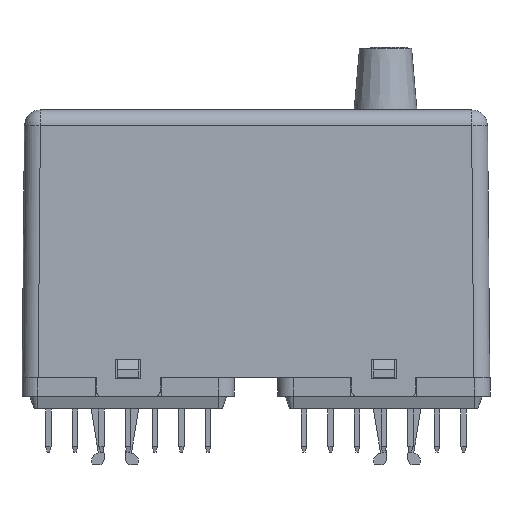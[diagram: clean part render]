
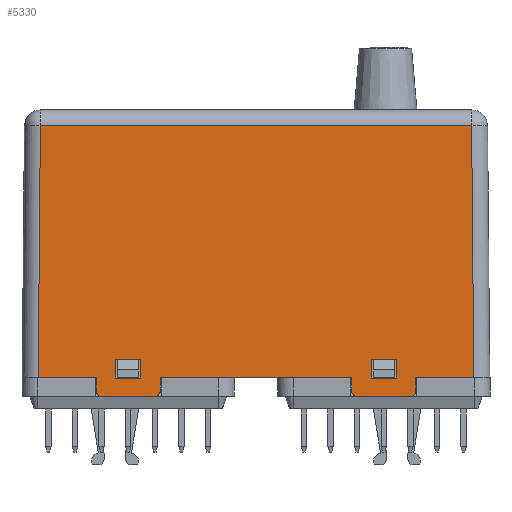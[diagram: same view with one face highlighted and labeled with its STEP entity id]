
A CAD part, front view. The second image highlights one B-rep face of the part: STEP entity #5330.
In plain terms, the highlighted planar face has unit normal (0, -1, 0.011).
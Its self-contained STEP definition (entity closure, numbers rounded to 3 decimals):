
#3420=CARTESIAN_POINT('',(40.909,-19.998,-0.05));
#3421=VERTEX_POINT('',#3420);
#3429=CARTESIAN_POINT('',(30.,-19.998,-0.05));
#3430=VERTEX_POINT('',#3429);
#3431=CARTESIAN_POINT('',(40.909,-19.998,-0.05));
#3432=DIRECTION('',(-1.0,0.0,0.0));
#3433=VECTOR('',#3432,10.909);
#3434=LINE('',#3431,#3433);
#3435=EDGE_CURVE('',#3421,#3430,#3434,.T.);
#3567=CARTESIAN_POINT('',(21.6,-19.999,-0.15));
#3568=VERTEX_POINT('',#3567);
#3575=CARTESIAN_POINT('',(26.4,-19.999,-0.15));
#3576=VERTEX_POINT('',#3575);
#3577=CARTESIAN_POINT('',(26.4,-19.999,-0.15));
#3578=DIRECTION('',(-1.0,0.0,0.0));
#3579=VECTOR('',#3578,4.8);
#3580=LINE('',#3577,#3579);
#3581=EDGE_CURVE('',#3576,#3568,#3580,.T.);
#4536=CARTESIAN_POINT('',(-30.0,-19.998,-0.05));
#4537=VERTEX_POINT('',#4536);
#4544=CARTESIAN_POINT('',(-40.909,-19.998,-0.05));
#4545=VERTEX_POINT('',#4544);
#4546=CARTESIAN_POINT('',(-30.0,-19.998,-0.05));
#4547=DIRECTION('',(-1.0,0.0,0.0));
#4548=VECTOR('',#4547,10.909);
#4549=LINE('',#4546,#4548);
#4550=EDGE_CURVE('',#4537,#4545,#4549,.T.);
#4585=CARTESIAN_POINT('',(-30.0,-20.024,-2.55));
#4586=VERTEX_POINT('',#4585);
#4593=CARTESIAN_POINT('',(-30.0,-20.024,-2.55));
#4594=DIRECTION('',(0.0,0.011,1.));
#4595=VECTOR('',#4594,2.5);
#4596=LINE('',#4593,#4595);
#4597=EDGE_CURVE('',#4586,#4537,#4596,.T.);
#4609=CARTESIAN_POINT('',(-29.0,-20.035,-3.55));
#4610=VERTEX_POINT('',#4609);
#4617=CARTESIAN_POINT('',(-29.0,-20.024,-2.55));
#4618=DIRECTION('',(0.0,1.,-0.011));
#4619=DIRECTION('',(0.0,0.011,1.));
#4620=AXIS2_PLACEMENT_3D('',#4617,#4618,#4619);
#4621=ELLIPSE('',#4620,1.,1.);
#4622=EDGE_CURVE('',#4610,#4586,#4621,.T.);
#4634=CARTESIAN_POINT('',(-19.0,-20.035,-3.55));
#4635=VERTEX_POINT('',#4634);
#4642=CARTESIAN_POINT('',(-29.,-20.035,-3.55));
#4643=DIRECTION('',(1.0,0.0,0.0));
#4644=VECTOR('',#4643,10.0);
#4645=LINE('',#4642,#4644);
#4646=EDGE_CURVE('',#4610,#4635,#4645,.T.);
#4658=CARTESIAN_POINT('',(-18.,-20.024,-2.55));
#4659=VERTEX_POINT('',#4658);
#4666=CARTESIAN_POINT('',(-19.0,-20.024,-2.55));
#4667=DIRECTION('',(0.0,1.,-0.011));
#4668=DIRECTION('',(0.0,0.011,1.));
#4669=AXIS2_PLACEMENT_3D('',#4666,#4667,#4668);
#4670=ELLIPSE('',#4669,1.,1.);
#4671=EDGE_CURVE('',#4659,#4635,#4670,.T.);
#4683=CARTESIAN_POINT('',(-18.0,-19.998,-0.05));
#4684=VERTEX_POINT('',#4683);
#4691=CARTESIAN_POINT('',(-18.0,-19.998,-0.05));
#4692=DIRECTION('',(0.,-0.011,-1.));
#4693=VECTOR('',#4692,2.5);
#4694=LINE('',#4691,#4693);
#4695=EDGE_CURVE('',#4684,#4659,#4694,.T.);
#4741=CARTESIAN_POINT('',(18.,-19.998,-0.05));
#4742=VERTEX_POINT('',#4741);
#4749=CARTESIAN_POINT('',(18.,-19.998,-0.05));
#4750=DIRECTION('',(-1.0,0.0,0.0));
#4751=VECTOR('',#4750,36.0);
#4752=LINE('',#4749,#4751);
#4753=EDGE_CURVE('',#4742,#4684,#4752,.T.);
#4781=CARTESIAN_POINT('',(18.,-20.024,-2.55));
#4782=VERTEX_POINT('',#4781);
#4789=CARTESIAN_POINT('',(18.0,-20.024,-2.55));
#4790=DIRECTION('',(0.,0.011,1.));
#4791=VECTOR('',#4790,2.5);
#4792=LINE('',#4789,#4791);
#4793=EDGE_CURVE('',#4782,#4742,#4792,.T.);
#4805=CARTESIAN_POINT('',(19.,-20.035,-3.55));
#4806=VERTEX_POINT('',#4805);
#4813=CARTESIAN_POINT('',(19.,-20.024,-2.55));
#4814=DIRECTION('',(0.0,1.,-0.011));
#4815=DIRECTION('',(0.0,0.011,1.));
#4816=AXIS2_PLACEMENT_3D('',#4813,#4814,#4815);
#4817=ELLIPSE('',#4816,1.,1.);
#4818=EDGE_CURVE('',#4806,#4782,#4817,.T.);
#4830=CARTESIAN_POINT('',(29.,-20.035,-3.55));
#4831=VERTEX_POINT('',#4830);
#4838=CARTESIAN_POINT('',(19.,-20.035,-3.55));
#4839=DIRECTION('',(1.0,0.0,0.0));
#4840=VECTOR('',#4839,10.);
#4841=LINE('',#4838,#4840);
#4842=EDGE_CURVE('',#4806,#4831,#4841,.T.);
#4853=CARTESIAN_POINT('',(-40.5,-19.5,47.282));
#4854=VERTEX_POINT('',#4853);
#4938=CARTESIAN_POINT('',(40.5,-19.5,47.282));
#4939=VERTEX_POINT('',#4938);
#5089=CARTESIAN_POINT('',(-40.5,-19.5,47.282));
#5090=DIRECTION('',(1.0,0.0,0.0));
#5091=VECTOR('',#5090,81.);
#5092=LINE('',#5089,#5091);
#5093=EDGE_CURVE('',#4854,#4939,#5092,.T.);
#5121=CARTESIAN_POINT('',(40.5,-19.5,47.282));
#5122=DIRECTION('',(0.009,-0.011,-1.));
#5123=VECTOR('',#5122,47.336);
#5124=LINE('',#5121,#5123);
#5125=EDGE_CURVE('',#4939,#3421,#5124,.T.);
#5193=CARTESIAN_POINT('',(-40.909,-19.998,-0.05));
#5194=DIRECTION('',(0.009,0.011,1.));
#5195=VECTOR('',#5194,47.336);
#5196=LINE('',#5193,#5195);
#5197=EDGE_CURVE('',#4545,#4854,#5196,.T.);
#5235=CARTESIAN_POINT('',(0.0,-19.5,47.282));
#5236=DIRECTION('',(0.0,1.,-0.011));
#5237=DIRECTION('',(0.0,-0.011,-1.));
#5238=AXIS2_PLACEMENT_3D('',#5235,#5236,#5237);
#5239=PLANE('',#5238);
#5240=ORIENTED_EDGE('',*,*,#5125,.F.);
#5241=ORIENTED_EDGE('',*,*,#5093,.F.);
#5242=ORIENTED_EDGE('',*,*,#5197,.F.);
#5243=ORIENTED_EDGE('',*,*,#4550,.F.);
#5244=ORIENTED_EDGE('',*,*,#4597,.F.);
#5245=ORIENTED_EDGE('',*,*,#4622,.F.);
#5246=ORIENTED_EDGE('',*,*,#4646,.T.);
#5247=ORIENTED_EDGE('',*,*,#4671,.F.);
#5248=ORIENTED_EDGE('',*,*,#4695,.F.);
#5249=ORIENTED_EDGE('',*,*,#4753,.F.);
#5250=ORIENTED_EDGE('',*,*,#4793,.F.);
#5251=ORIENTED_EDGE('',*,*,#4818,.F.);
#5252=ORIENTED_EDGE('',*,*,#4842,.T.);
#5253=CARTESIAN_POINT('',(30.,-20.024,-2.55));
#5254=VERTEX_POINT('',#5253);
#5255=CARTESIAN_POINT('',(29.,-20.024,-2.55));
#5256=DIRECTION('',(0.0,1.,-0.011));
#5257=DIRECTION('',(0.0,0.011,1.));
#5258=AXIS2_PLACEMENT_3D('',#5255,#5256,#5257);
#5259=ELLIPSE('',#5258,1.,1.0);
#5260=EDGE_CURVE('',#5254,#4831,#5259,.T.);
#5261=ORIENTED_EDGE('',*,*,#5260,.F.);
#5262=CARTESIAN_POINT('',(30.0,-19.998,-0.05));
#5263=DIRECTION('',(0.0,-0.011,-1.));
#5264=VECTOR('',#5263,2.5);
#5265=LINE('',#5262,#5264);
#5266=EDGE_CURVE('',#3430,#5254,#5265,.T.);
#5267=ORIENTED_EDGE('',*,*,#5266,.F.);
#5268=ORIENTED_EDGE('',*,*,#3435,.F.);
#5269=EDGE_LOOP('',(#5240,#5241,#5242,#5243,#5244,#5245,#5246,#5247,#5248,#5249,#5250,#5251,#5252,#5261,#5267,#5268));
#5270=FACE_OUTER_BOUND('',#5269,.T.);
#5271=CARTESIAN_POINT('',(26.4,-19.961,3.45));
#5272=VERTEX_POINT('',#5271);
#5273=CARTESIAN_POINT('',(26.4,-19.961,3.45));
#5274=DIRECTION('',(0.0,-0.011,-1.));
#5275=VECTOR('',#5274,3.6);
#5276=LINE('',#5273,#5275);
#5277=EDGE_CURVE('',#5272,#3576,#5276,.T.);
#5278=ORIENTED_EDGE('',*,*,#5277,.T.);
#5279=ORIENTED_EDGE('',*,*,#3581,.T.);
#5280=CARTESIAN_POINT('',(21.6,-19.961,3.45));
#5281=VERTEX_POINT('',#5280);
#5282=CARTESIAN_POINT('',(21.6,-19.999,-0.15));
#5283=DIRECTION('',(0.,0.011,1.));
#5284=VECTOR('',#5283,3.6);
#5285=LINE('',#5282,#5284);
#5286=EDGE_CURVE('',#3568,#5281,#5285,.T.);
#5287=ORIENTED_EDGE('',*,*,#5286,.T.);
#5288=CARTESIAN_POINT('',(21.6,-19.961,3.45));
#5289=DIRECTION('',(1.0,0.0,0.0));
#5290=VECTOR('',#5289,4.8);
#5291=LINE('',#5288,#5290);
#5292=EDGE_CURVE('',#5281,#5272,#5291,.T.);
#5293=ORIENTED_EDGE('',*,*,#5292,.T.);
#5294=EDGE_LOOP('',(#5278,#5279,#5287,#5293));
#5295=FACE_BOUND('',#5294,.T.);
#5296=CARTESIAN_POINT('',(-21.6,-19.961,3.45));
#5297=VERTEX_POINT('',#5296);
#5298=CARTESIAN_POINT('',(-21.6,-19.999,-0.15));
#5299=VERTEX_POINT('',#5298);
#5300=CARTESIAN_POINT('',(-21.6,-19.961,3.45));
#5301=DIRECTION('',(0.,-0.011,-1.));
#5302=VECTOR('',#5301,3.6);
#5303=LINE('',#5300,#5302);
#5304=EDGE_CURVE('',#5297,#5299,#5303,.T.);
#5305=ORIENTED_EDGE('',*,*,#5304,.T.);
#5306=CARTESIAN_POINT('',(-26.4,-19.999,-0.15));
#5307=VERTEX_POINT('',#5306);
#5308=CARTESIAN_POINT('',(-21.6,-19.999,-0.15));
#5309=DIRECTION('',(-1.0,0.0,0.0));
#5310=VECTOR('',#5309,4.8);
#5311=LINE('',#5308,#5310);
#5312=EDGE_CURVE('',#5299,#5307,#5311,.T.);
#5313=ORIENTED_EDGE('',*,*,#5312,.T.);
#5314=CARTESIAN_POINT('',(-26.4,-19.961,3.45));
#5315=VERTEX_POINT('',#5314);
#5316=CARTESIAN_POINT('',(-26.4,-19.999,-0.15));
#5317=DIRECTION('',(0.0,0.011,1.));
#5318=VECTOR('',#5317,3.6);
#5319=LINE('',#5316,#5318);
#5320=EDGE_CURVE('',#5307,#5315,#5319,.T.);
#5321=ORIENTED_EDGE('',*,*,#5320,.T.);
#5322=CARTESIAN_POINT('',(-26.4,-19.961,3.45));
#5323=DIRECTION('',(1.0,0.0,0.0));
#5324=VECTOR('',#5323,4.8);
#5325=LINE('',#5322,#5324);
#5326=EDGE_CURVE('',#5315,#5297,#5325,.T.);
#5327=ORIENTED_EDGE('',*,*,#5326,.T.);
#5328=EDGE_LOOP('',(#5305,#5313,#5321,#5327));
#5329=FACE_BOUND('',#5328,.T.);
#5330=ADVANCED_FACE('',(#5270,#5295,#5329),#5239,.F.);
